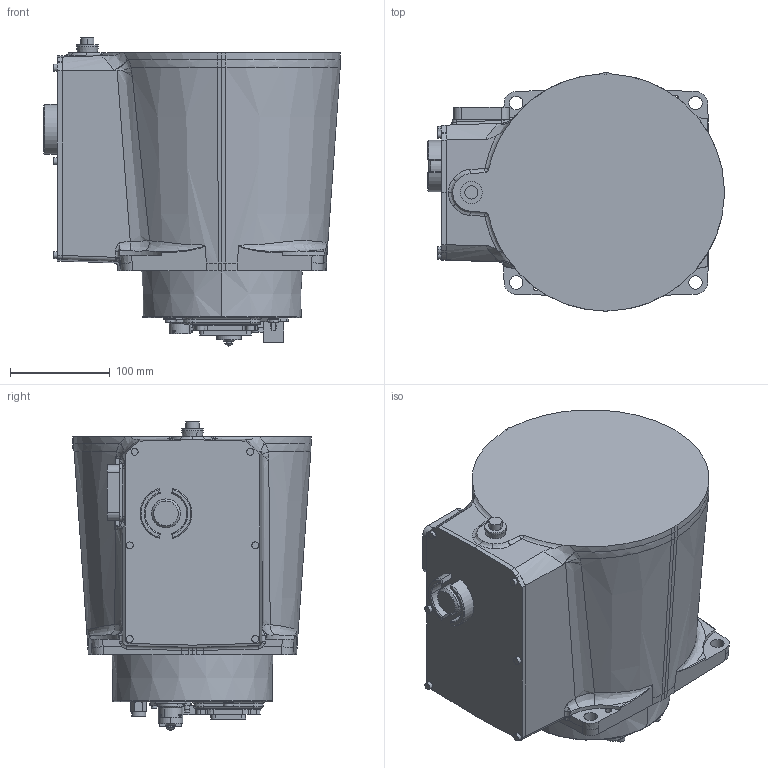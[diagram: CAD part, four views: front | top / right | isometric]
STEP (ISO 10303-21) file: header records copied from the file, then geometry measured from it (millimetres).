
FILE_DESCRIPTION (( 'STEP AP214' ), '1' );
FILE_NAME ('IRB1200H_7-705-90_IRC5_Base_Bottom_rev0.step', '2022-01-17T08:44:18', ( '' ), ( '' ), 'SwSTEP 2.0', 'SolidWorks 2020', '' );
FILE_SCHEMA (( 'AUTOMOTIVE_DESIGN' ));
Length unit declared in the file: millimetre
Products named in the file (1): IRB1200H_7-705-90_IRC5_Base_Bottom_rev0
Bounding box: 298.07 x 239.07 x 309.45 mm (x, y, z)
Volume: 11620334.5 mm3; surface area: 337710.3 mm2
Topology: 1 solids, 1 shells, 670 faces, 1680 edges, 1033 vertices
Faces by surface type: plane 219, cylinder 179, cone 121, bspline 112, torus 35, sphere 4
Entity records: 30512 total; most frequent: CARTESIAN_POINT 15717, ORIENTED_EDGE 3326, DIRECTION 2780, EDGE_CURVE 1663, AXIS2_PLACEMENT_3D 1075, VERTEX_POINT 1032, EDGE_LOOP 719, FACE_OUTER_BOUND 670
